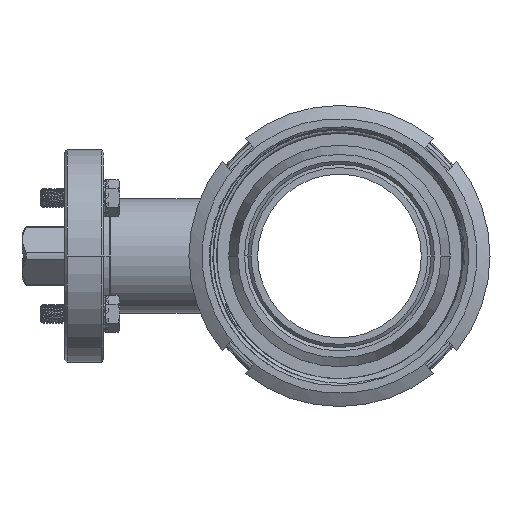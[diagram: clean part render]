
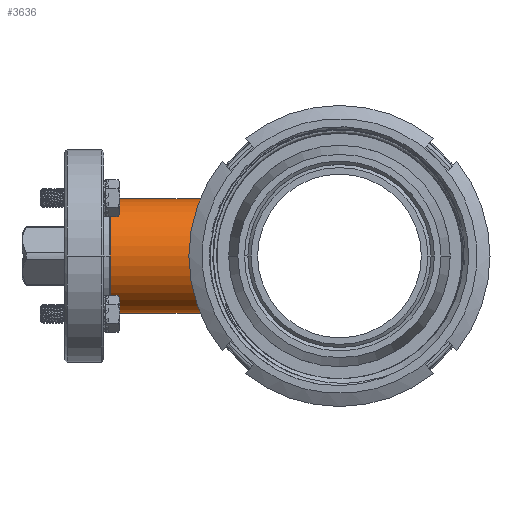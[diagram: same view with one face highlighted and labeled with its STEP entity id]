
A CAD part, left-side view. The second image highlights one B-rep face of the part: STEP entity #3636.
In plain terms, the highlighted cylindrical face has radius 17.5 mm (diameter 35 mm), a partial arc.
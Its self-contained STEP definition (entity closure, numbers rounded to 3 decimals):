
#3499=CARTESIAN_POINT('',(0.,70.,0.));
#3500=DIRECTION('',(0.,1.,0.));
#3501=DIRECTION('',(0.,0.,-1.));
#3502=AXIS2_PLACEMENT_3D('',#3499,#3500,#3501);
#3504=CARTESIAN_POINT('',(0.,41.,0.));
#3505=DIRECTION('',(0.,1.,0.));
#3506=DIRECTION('',(0.,0.,-1.));
#3507=AXIS2_PLACEMENT_3D('',#3504,#3505,#3506);
#3514=DIRECTION('',(0.,1.,0.));
#3515=VECTOR('',#3514,29.);
#3516=CARTESIAN_POINT('',(0.,41.,
-17.5));
#3517=LINE('',#3516,#3515);
#3523=DIRECTION('',(0.,1.,0.));
#3524=VECTOR('',#3523,29.);
#3525=CARTESIAN_POINT('',(0.,41.,
17.5));
#3526=LINE('',#3525,#3524);
#3553=CARTESIAN_POINT('',(0.,41.,17.5));
#3554=CARTESIAN_POINT('',(0.,41.,-17.5));
#3555=VERTEX_POINT('',#3553);
#3556=VERTEX_POINT('',#3554);
#3569=CARTESIAN_POINT('',(0.,70.,17.5));
#3570=CARTESIAN_POINT('',(0.,70.,-17.5));
#3571=VERTEX_POINT('',#3569);
#3572=VERTEX_POINT('',#3570);
#3621=CARTESIAN_POINT('',(0.,73.575,0.));
#3622=DIRECTION('',(0.,-1.,0.));
#3623=DIRECTION('',(0.,0.,-1.));
#3624=AXIS2_PLACEMENT_3D('',#3621,#3622,#3623);
#3625=CYLINDRICAL_SURFACE('',#3624,17.5);
#3627=ORIENTED_EDGE('',*,*,#3626,.T.);
#3629=ORIENTED_EDGE('',*,*,#3628,.F.);
#3631=ORIENTED_EDGE('',*,*,#3630,.F.);
#3633=ORIENTED_EDGE('',*,*,#3632,.T.);
#3634=EDGE_LOOP('',(#3627,#3629,#3631,#3633));
#3635=FACE_OUTER_BOUND('',#3634,.F.);
#3636=ADVANCED_FACE('',(#3635),#3625,.T.);
#3503=CIRCLE('',#3502,17.5);
#3508=CIRCLE('',#3507,17.5);
#3626=EDGE_CURVE('',#3572,#3571,#3503,.T.);
#3628=EDGE_CURVE('',#3555,#3571,#3526,.T.);
#3630=EDGE_CURVE('',#3556,#3555,#3508,.T.);
#3632=EDGE_CURVE('',#3556,#3572,#3517,.T.);
